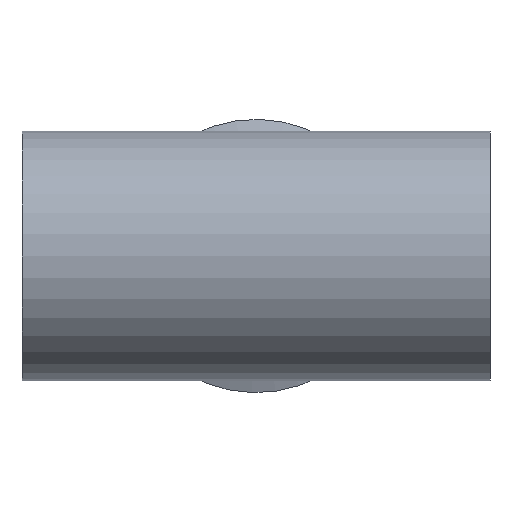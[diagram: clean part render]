
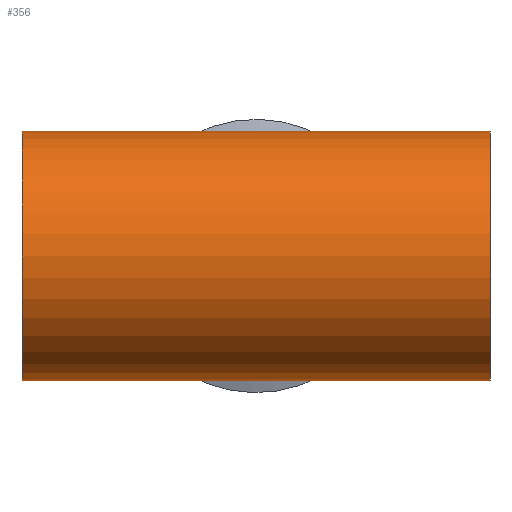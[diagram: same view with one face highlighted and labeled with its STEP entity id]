
A CAD part, front view. The second image highlights one B-rep face of the part: STEP entity #356.
In plain terms, the highlighted cylindrical face has radius 76.2 mm (diameter 152.4 mm), a partial arc.
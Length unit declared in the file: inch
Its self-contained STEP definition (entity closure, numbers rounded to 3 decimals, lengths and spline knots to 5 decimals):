
#7 = DIRECTION ( 'NONE',  ( 0., 0., -1. ) ) ;
#10 = VECTOR ( 'NONE', #157, 39.37008 ) ;
#11 = CARTESIAN_POINT ( 'NONE',  ( -5.625, 0., 0. ) ) ;
#24 = CYLINDRICAL_SURFACE ( 'NONE', #965, 3. ) ;
#61 = ORIENTED_EDGE ( 'NONE', *, *, #1000, .T. ) ;
#103 = DIRECTION ( 'NONE',  ( -1., 0., 0. ) ) ;
#105 = VERTEX_POINT ( 'NONE', #680 ) ;
#107 = CARTESIAN_POINT ( 'NONE',  ( 5.625, 0., 3. ) ) ;
#121 = CIRCLE ( 'NONE', #314, 3. ) ;
#123 = CARTESIAN_POINT ( 'NONE',  ( 0., 0., -3. ) ) ;
#132 = ORIENTED_EDGE ( 'NONE', *, *, #868, .T. ) ;
#157 = DIRECTION ( 'NONE',  ( -1., 0., 0. ) ) ;
#166 = LINE ( 'NONE', #790, #10 ) ;
#188 = CARTESIAN_POINT ( 'NONE',  ( 5.625, 0., 0. ) ) ;
#217 = FACE_OUTER_BOUND ( 'NONE', #730, .T. ) ;
#229 = VECTOR ( 'NONE', #103, 39.37008 ) ;
#267 = VERTEX_POINT ( 'NONE', #382 ) ;
#273 = CARTESIAN_POINT ( 'NONE',  ( 0., 0., 3. ) ) ;
#282 = DIRECTION ( 'NONE',  ( -1., 0., 0. ) ) ;
#284 = ORIENTED_EDGE ( 'NONE', *, *, #980, .F. ) ;
#309 = VERTEX_POINT ( 'NONE', #273 ) ;
#314 = AXIS2_PLACEMENT_3D ( 'NONE', #922, #918, #916 ) ;
#350 = AXIS2_PLACEMENT_3D ( 'NONE', #11, #825, #7 ) ;
#353 = LINE ( 'NONE', #448, #431 ) ;
#356 = ADVANCED_FACE ( 'NONE', ( #217 ), #24, .T. ) ;
#382 = CARTESIAN_POINT ( 'NONE',  ( 5.625, 0., -3. ) ) ;
#395 = DIRECTION ( 'NONE',  ( 0., 0., 1. ) ) ;
#431 = VECTOR ( 'NONE', #1074, 39.37008 ) ;
#438 = CIRCLE ( 'NONE', #350, 3. ) ;
#448 = CARTESIAN_POINT ( 'NONE',  ( 5.625, 0., -3. ) ) ;
#472 = VERTEX_POINT ( 'NONE', #743 ) ;
#526 = ORIENTED_EDGE ( 'NONE', *, *, #765, .F. ) ;
#536 = ORIENTED_EDGE ( 'NONE', *, *, #1058, .F. ) ;
#603 = VERTEX_POINT ( 'NONE', #123 ) ;
#627 = CARTESIAN_POINT ( 'NONE',  ( 5.625, 0., 3. ) ) ;
#680 = CARTESIAN_POINT ( 'NONE',  ( -5.625, 0., -3. ) ) ;
#723 = VERTEX_POINT ( 'NONE', #627 ) ;
#730 = EDGE_LOOP ( 'NONE', ( #526, #536, #61, #132, #957, #284 ) ) ;
#743 = CARTESIAN_POINT ( 'NONE',  ( -5.625, 0., 3. ) ) ;
#765 = EDGE_CURVE ( 'NONE', #267, #603, #1125, .T. ) ;
#790 = CARTESIAN_POINT ( 'NONE',  ( 5.625, 0., 3. ) ) ;
#825 = DIRECTION ( 'NONE',  ( 1., 0., 0. ) ) ;
#868 = EDGE_CURVE ( 'NONE', #309, #472, #166, .T. ) ;
#916 = DIRECTION ( 'NONE',  ( 0., 0., -1. ) ) ;
#918 = DIRECTION ( 'NONE',  ( 1., 0., 0. ) ) ;
#922 = CARTESIAN_POINT ( 'NONE',  ( 5.625, 0., 0. ) ) ;
#957 = ORIENTED_EDGE ( 'NONE', *, *, #1016, .T. ) ;
#965 = AXIS2_PLACEMENT_3D ( 'NONE', #188, #282, #395 ) ;
#980 = EDGE_CURVE ( 'NONE', #603, #105, #353, .T. ) ;
#1000 = EDGE_CURVE ( 'NONE', #723, #309, #1111, .T. ) ;
#1016 = EDGE_CURVE ( 'NONE', #472, #105, #438, .T. ) ;
#1058 = EDGE_CURVE ( 'NONE', #723, #267, #121, .T. ) ;
#1075 = DIRECTION ( 'NONE',  ( -1., 0., 0. ) ) ;
#1074 = DIRECTION ( 'NONE',  ( -1., 0., 0. ) ) ;
#1099 = VECTOR ( 'NONE', #1075, 39.37008 ) ;
#1111 = LINE ( 'NONE', #107, #229 ) ;
#1119 = CARTESIAN_POINT ( 'NONE',  ( 5.625, 0., -3. ) ) ;
#1125 = LINE ( 'NONE', #1119, #1099 ) ;
